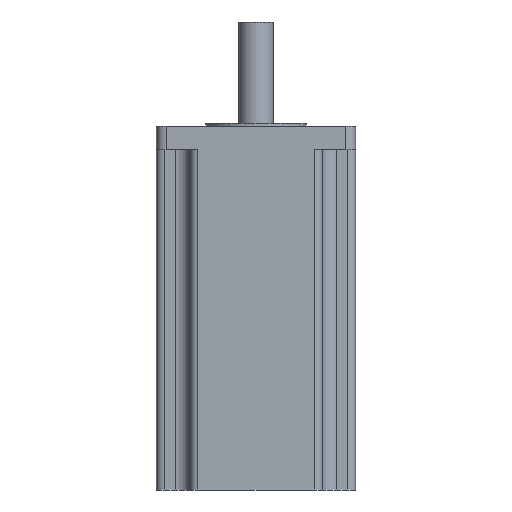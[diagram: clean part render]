
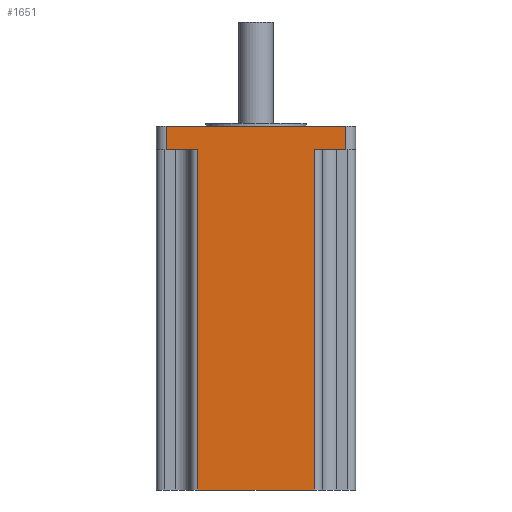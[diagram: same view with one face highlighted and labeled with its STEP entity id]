
A CAD part, front view. The second image highlights one B-rep face of the part: STEP entity #1651.
In plain terms, the highlighted planar face has unit normal (0, -1, 0).
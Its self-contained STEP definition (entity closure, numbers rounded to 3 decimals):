
#3 = CARTESIAN_POINT ( 'NONE',  ( -49.5, -55., 13. ) ) ;
#7 = CARTESIAN_POINT ( 'NONE',  ( -55., -55., 13. ) ) ;
#8 = AXIS2_PLACEMENT_3D ( 'NONE', #7, #1704, #1528 ) ;
#68 = EDGE_CURVE ( 'NONE', #1750, #1689, #424, .T. ) ;
#107 = ORIENTED_EDGE ( 'NONE', *, *, #481, .F. ) ;
#138 = DIRECTION ( 'NONE',  ( -1., 0., 0. ) ) ;
#159 = CARTESIAN_POINT ( 'NONE',  ( -49.5, -55., 13. ) ) ;
#172 = EDGE_CURVE ( 'NONE', #397, #1933, #1801, .T. ) ;
#179 = VECTOR ( 'NONE', #1784, 1000. ) ;
#192 = CARTESIAN_POINT ( 'NONE',  ( 49.5, -55., 0. ) ) ;
#210 = ORIENTED_EDGE ( 'NONE', *, *, #172, .F. ) ;
#216 = ORIENTED_EDGE ( 'NONE', *, *, #1213, .T. ) ;
#236 = CARTESIAN_POINT ( 'NONE',  ( -32.05, -55., 0. ) ) ;
#324 = ORIENTED_EDGE ( 'NONE', *, *, #895, .F. ) ;
#391 = CARTESIAN_POINT ( 'NONE',  ( 32.05, -55., -188. ) ) ;
#397 = VERTEX_POINT ( 'NONE', #2186 ) ;
#405 = VECTOR ( 'NONE', #1539, 1000. ) ;
#424 = LINE ( 'NONE', #3, #1900 ) ;
#444 = LINE ( 'NONE', #1167, #1816 ) ;
#449 = EDGE_CURVE ( 'NONE', #1179, #644, #444, .T. ) ;
#481 = EDGE_CURVE ( 'NONE', #511, #1750, #1379, .T. ) ;
#511 = VERTEX_POINT ( 'NONE', #236 ) ;
#644 = VERTEX_POINT ( 'NONE', #391 ) ;
#681 = DIRECTION ( 'NONE',  ( 0., 0., -1. ) ) ;
#705 = LINE ( 'NONE', #1837, #1591 ) ;
#722 = VECTOR ( 'NONE', #681, 1000. ) ;
#732 = DIRECTION ( 'NONE',  ( -1., 0., 0. ) ) ;
#733 = VECTOR ( 'NONE', #138, 1000. ) ;
#745 = ORIENTED_EDGE ( 'NONE', *, *, #2150, .F. ) ;
#747 = CARTESIAN_POINT ( 'NONE',  ( -55., -55., 0. ) ) ;
#811 = CARTESIAN_POINT ( 'NONE',  ( 55., -55., 0. ) ) ;
#831 = DIRECTION ( 'NONE',  ( 0., 0., 1. ) ) ;
#870 = DIRECTION ( 'NONE',  ( 0., 0., -1. ) ) ;
#895 = EDGE_CURVE ( 'NONE', #2095, #511, #705, .T. ) ;
#960 = CARTESIAN_POINT ( 'NONE',  ( -32.05, -55., -188. ) ) ;
#1160 = VECTOR ( 'NONE', #732, 1000. ) ;
#1167 = CARTESIAN_POINT ( 'NONE',  ( 32.05, -55., -137. ) ) ;
#1179 = VERTEX_POINT ( 'NONE', #1389 ) ;
#1198 = CARTESIAN_POINT ( 'NONE',  ( -32.05, -55., -188. ) ) ;
#1200 = DIRECTION ( 'NONE',  ( 0., 0., 1. ) ) ;
#1213 = EDGE_CURVE ( 'NONE', #397, #1689, #2151, .T. ) ;
#1355 = CARTESIAN_POINT ( 'NONE',  ( -49.5, -55., 0. ) ) ;
#1379 = LINE ( 'NONE', #747, #179 ) ;
#1389 = CARTESIAN_POINT ( 'NONE',  ( 32.05, -55., 0. ) ) ;
#1524 = EDGE_CURVE ( 'NONE', #1933, #1179, #2128, .T. ) ;
#1528 = DIRECTION ( 'NONE',  ( 0., 0., 1. ) ) ;
#1539 = DIRECTION ( 'NONE',  ( -1., 0., 0. ) ) ;
#1591 = VECTOR ( 'NONE', #831, 1000. ) ;
#1647 = ORIENTED_EDGE ( 'NONE', *, *, #449, .F. ) ;
#1651 = ADVANCED_FACE ( 'NONE', ( #1725 ), #2050, .F. ) ;
#1689 = VERTEX_POINT ( 'NONE', #159 ) ;
#1704 = DIRECTION ( 'NONE',  ( 0., 1., 0. ) ) ;
#1725 = FACE_OUTER_BOUND ( 'NONE', #2193, .T. ) ;
#1750 = VERTEX_POINT ( 'NONE', #1355 ) ;
#1782 = LINE ( 'NONE', #1198, #405 ) ;
#1784 = DIRECTION ( 'NONE',  ( -1., 0., 0. ) ) ;
#1801 = LINE ( 'NONE', #1878, #722 ) ;
#1816 = VECTOR ( 'NONE', #870, 1000. ) ;
#1837 = CARTESIAN_POINT ( 'NONE',  ( -32.05, -55., 13. ) ) ;
#1878 = CARTESIAN_POINT ( 'NONE',  ( 49.5, -55., 13. ) ) ;
#1900 = VECTOR ( 'NONE', #1200, 1000. ) ;
#1933 = VERTEX_POINT ( 'NONE', #192 ) ;
#1955 = CARTESIAN_POINT ( 'NONE',  ( 55., -55., 13. ) ) ;
#1989 = ORIENTED_EDGE ( 'NONE', *, *, #1524, .F. ) ;
#2050 = PLANE ( 'NONE',  #8 ) ;
#2095 = VERTEX_POINT ( 'NONE', #960 ) ;
#2128 = LINE ( 'NONE', #811, #733 ) ;
#2150 = EDGE_CURVE ( 'NONE', #644, #2095, #1782, .T. ) ;
#2151 = LINE ( 'NONE', #1955, #1160 ) ;
#2186 = CARTESIAN_POINT ( 'NONE',  ( 49.5, -55., 13. ) ) ;
#2189 = ORIENTED_EDGE ( 'NONE', *, *, #68, .F. ) ;
#2193 = EDGE_LOOP ( 'NONE', ( #2189, #107, #324, #745, #1647, #1989, #210, #216 ) ) ;
